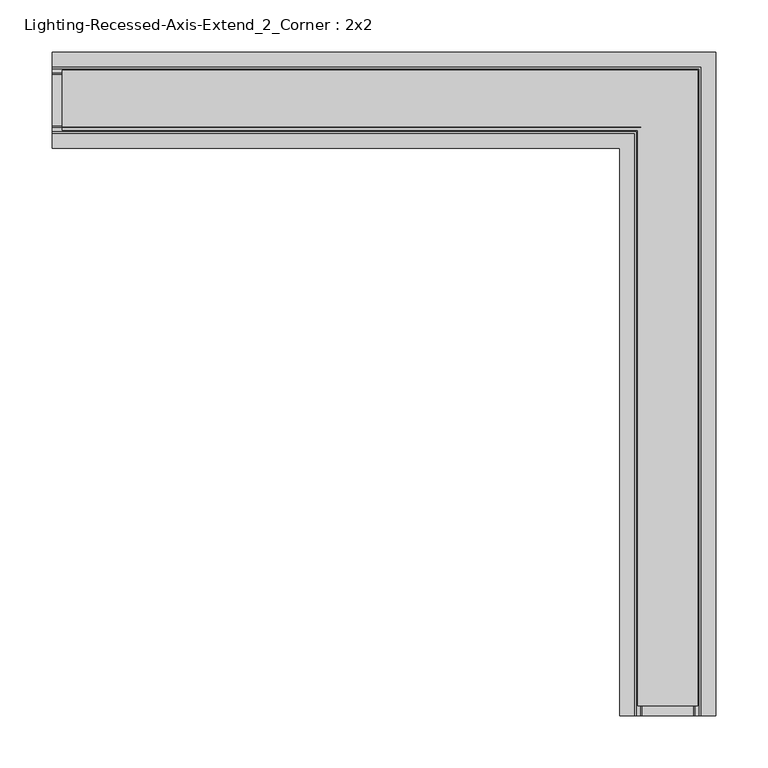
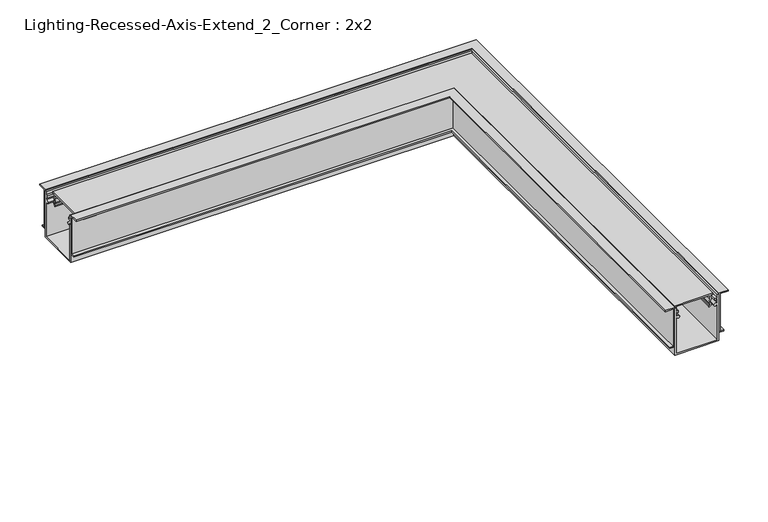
"""IFC4 building model written with IfcOpenShell, lengths in millimetres: light fixture geometry, Lighting-Recessed-Axis-Extend_2_Corner : 2x2."""

from ifc_helpers import new_model, si_unit, frame, origin, place, context, project, spatial, polyline, circle_curve, ellipse_curve, faceted_brep, source, transform, mapped, element, save
from ifc_brep_helpers import plane_surface, cylinder_surface, revolved_surface, advanced_brep


def lighting_recessed_axis_extend_2_corner_2x2_af192418(model_context):
    return source(origin(), model_context, "Body", "SolidModel", [
        advanced_brep(
        [(-304.8, -24.1727262, -4.8895009), (-304.8, -24.5114181, -11.3521263), (-304.8, -25.3818814, -17.9580097), (-304.8, -24.5665956, -19.4557425), (-304.8, -23.2119066, -20.6551445), (-304.8, -24.192808, -21.9831631), (-304.8, -25.7659952, -20.5903092), (-304.8, -27.1108807, -16.75974), (-304.8, -25.4753941, -12.7205342), (-304.8, -26.1394859, -10.8713211), (-304.8, -25.825992, -4.8895009), (-304.8, -28.829, -4.8895009), (-304.8, -28.829, -2.9845), (-304.8, 28.829, -2.9845), (-304.8, 28.829, -4.8895009), (-304.8, 25.825992, -4.8895009), (-304.8, 26.1394859, -10.8713211), (-304.8, 25.4753941, -12.7205342), (-304.8, 27.1108807, -16.75974), (-304.8, 25.7659952, -20.5903092), (-304.8, 24.192808, -21.9831631), (-304.8, 23.2119066, -20.6551445), (-304.8, 24.5665956, -19.4557425), (-304.8, 25.3818814, -17.9580097), (-304.8, 24.5114181, -11.3521263), (-304.8, 24.1727262, -4.8895009), (248.6232738, -577.596, -4.8895009), (296.9687262, -577.596, -4.8895009), (297.3074181, -577.596, -11.3521263), (298.1778814, -577.596, -17.9580097), (297.3625956, -577.596, -19.4557425), (296.0079066, -577.596, -20.6551445), (296.988808, -577.596, -21.9831631), (298.5619952, -577.596, -20.5903092), (299.9068807, -577.596, -16.75974), (298.2713941, -577.596, -12.7205342), (298.9354859, -577.596, -10.8713211), (298.621992, -577.596, -4.8895009), (301.625, -577.596, -4.8895009), (301.625, -577.596, -2.9845), (243.967, -577.596, -2.9845), (243.967, -577.596, -4.8895009), (246.970008, -577.596, -4.8895009), (246.6565141, -577.596, -10.8713211), (247.3206059, -577.596, -12.7205342), (245.6851193, -577.596, -16.75974), (247.0300048, -577.596, -20.5903092), (248.603192, -577.596, -21.9831631), (249.5840934, -577.596, -20.6551445), (248.2294044, -577.596, -19.4557425), (247.4141186, -577.596, -17.9580097), (248.2845819, -577.596, -11.3521263), (248.6232738, -24.1727262, -4.8895009), (248.2845819, -24.5114181, -11.3521263), (247.4141186, -25.3818814, -17.9580097), (248.2294044, -24.5665956, -19.4557425), (249.5840934, -23.2119066, -20.6551445), (248.603192, -24.192808, -21.9831631), (247.0300048, -25.7659952, -20.5903092), (245.6851193, -27.1108807, -16.75974), (247.3206059, -25.4753941, -12.7205342), (246.6565141, -26.1394859, -10.8713211), (246.970008, -25.825992, -4.8895009), (243.967, -28.829, -4.8895009), (243.967, -28.829, -2.9845), (301.625, 28.829, -2.9845), (301.625, 28.829, -4.8895009), (298.621992, 25.825992, -4.8895009), (298.9354859, 26.1394859, -10.8713211), (298.2713941, 25.4753941, -12.7205342), (299.9068807, 27.1108807, -16.75974), (298.5619952, 25.7659952, -20.5903092), (296.988808, 24.192808, -21.9831631), (296.0079066, 23.2119066, -20.6551445), (297.3625956, 24.5665956, -19.4557425), (298.1778814, 25.3818814, -17.9580097), (297.3074181, 24.5114181, -11.3521263), (296.9687262, 24.1727262, -4.8895009)],
        [
            (0, 1),
            (1, 2, circle_curve(frame((-304.8, -27.2542, -14.351), z_axis=(-1.0, 0.0, 0.0), x_axis=(0.0, 0.6748971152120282, 0.7379118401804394)), 4.064)),
            (2, 3, circle_curve(frame((-304.8, -22.149344, -17.1691543), z_axis=(1.0, 0.0, 0.0), x_axis=(0.0, -0.971490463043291, -0.23707863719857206)), 3.3274001)),
            (3, 4, circle_curve(frame((-304.8, -17.1303177, -12.4214292), z_axis=(1.0, 0.0, 0.0), x_axis=(0.0, -0.7264901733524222, -0.6871768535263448)), 10.2362001)),
            (4, 5, circle_curve(frame((-304.8, -23.7023573, -21.3191538), z_axis=(-1.0, 0.0, 0.0), x_axis=(0.0, 0.5941256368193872, 0.8043722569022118)), 0.8255)),
            (5, 6, circle_curve(frame((-304.8, -17.1303169, -12.4214283), z_axis=(-1.0, 0.0, 0.0), x_axis=(0.0, -0.5941256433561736, -0.8043722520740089)), 11.8872013)),
            (6, 7, circle_curve(frame((-304.8, -22.149344, -17.1691543), z_axis=(-1.0, 0.0, 0.0), x_axis=(0.0, -0.726468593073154, -0.6871996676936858)), 4.9784001)),
            (7, 8, circle_curve(frame((-304.8, -27.2542, -14.351), z_axis=(1.0, 0.0, 0.0), x_axis=(0.0, 0.05939464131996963, -0.9982345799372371)), 2.413)),
            (8, 9, circle_curve(frame((-304.8, -23.6029669, -11.0042544), z_axis=(-1.0, 0.0, 0.0), x_axis=(0.0, -0.7371760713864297, -0.675700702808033)), 2.54)),
            (9, 10),
            (10, 11),
            (11, 12),
            (12, 13),
            (13, 14),
            (14, 15),
            (15, 16),
            (16, 17, circle_curve(frame((-304.8, 23.6029669, -11.0042544), z_axis=(-1.0, 0.0, 0.0), x_axis=(0.0, 0.9986295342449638, 0.05233596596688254)), 2.54)),
            (17, 18, circle_curve(frame((-304.8, 27.2542, -14.351), z_axis=(1.0, 0.0, 0.0), x_axis=(0.0, -0.7371760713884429, 0.6757007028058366)), 2.413)),
            (18, 19, circle_curve(frame((-304.8, 22.149344, -17.1691543), z_axis=(-1.0, 0.0, 0.0), x_axis=(0.0, 0.996612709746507, 0.08223811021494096)), 4.9784001)),
            (19, 20, circle_curve(frame((-304.8, 17.1303169, -12.4214283), z_axis=(-1.0, 0.0, 0.0), x_axis=(0.0, 0.72646858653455, -0.6871996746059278)), 11.8872013)),
            (20, 21, circle_curve(frame((-304.8, 23.7023573, -21.3191538), z_axis=(-1.0, 0.0, 0.0), x_axis=(0.0, 0.594125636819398, -0.8043722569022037)), 0.8255)),
            (21, 22, circle_curve(frame((-304.8, 17.1303177, -12.4214292), z_axis=(1.0, 0.0, 0.0), x_axis=(0.0, 0.5941256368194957, -0.8043722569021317)), 10.2362001)),
            (22, 23, circle_curve(frame((-304.8, 22.149344, -17.1691543), z_axis=(1.0, 0.0, 0.0), x_axis=(0.0, 0.7265349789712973, -0.6871294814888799)), 3.3274001)),
            (23, 24, circle_curve(frame((-304.8, 27.2542, -14.351), z_axis=(-1.0, 0.0, 0.0), x_axis=(0.0, -0.46070831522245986, -0.8875516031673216)), 4.064)),
            (24, 25),
            (25, 0),
            (26, 27),
            (27, 28),
            (28, 29, circle_curve(frame((300.0502, -577.596, -14.351), z_axis=(0.0, -1.0, 0.0), x_axis=(-0.46070831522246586, 0.0, -0.8875516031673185)), 4.064)),
            (29, 30, circle_curve(frame((294.945344, -577.596, -17.1691543), z_axis=(0.0, 1.0, 0.0), x_axis=(0.7265349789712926, 0.0, -0.6871294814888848)), 3.3274001)),
            (30, 31, circle_curve(frame((289.9263177, -577.596, -12.4214292), z_axis=(0.0, 1.0, 0.0), x_axis=(0.5941256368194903, 0.0, -0.8043722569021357)), 10.2362001)),
            (31, 32, circle_curve(frame((296.4983573, -577.596, -21.3191538), z_axis=(0.0, -1.0, 0.0), x_axis=(0.5941256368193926, 0.0, -0.8043722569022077)), 0.8255)),
            (32, 33, circle_curve(frame((289.9263169, -577.596, -12.4214283), z_axis=(0.0, -1.0, 0.0), x_axis=(0.7264685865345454, 0.0, -0.6871996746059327)), 11.8872013)),
            (33, 34, circle_curve(frame((294.945344, -577.596, -17.1691543), z_axis=(0.0, -1.0, 0.0), x_axis=(0.9966127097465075, 0.0, 0.0822381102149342)), 4.9784001)),
            (34, 35, circle_curve(frame((300.0502, -577.596, -14.351), z_axis=(0.0, 1.0, 0.0), x_axis=(-0.7371760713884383, 0.0, 0.6757007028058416)), 2.413)),
            (35, 36, circle_curve(frame((296.3989669, -577.596, -11.0042544), z_axis=(0.0, -1.0, 0.0), x_axis=(0.9986295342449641, 0.0, 0.052335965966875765)), 2.54)),
            (36, 37),
            (37, 38),
            (38, 39),
            (39, 40),
            (40, 41),
            (41, 42),
            (42, 43),
            (43, 44, circle_curve(frame((249.1930331, -577.596, -11.0042544), z_axis=(0.0, -1.0, 0.0), x_axis=(-0.7371760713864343, 0.0, -0.675700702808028)), 2.54)),
            (44, 45, circle_curve(frame((245.5418, -577.596, -14.351), z_axis=(0.0, 1.0, 0.0), x_axis=(0.05939464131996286, 0.0, -0.9982345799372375)), 2.413)),
            (45, 46, circle_curve(frame((250.646656, -577.596, -17.1691543), z_axis=(0.0, -1.0, 0.0), x_axis=(-0.7264685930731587, 0.0, -0.6871996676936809)), 4.9784001)),
            (46, 47, circle_curve(frame((255.6656831, -577.596, -12.4214283), z_axis=(0.0, -1.0, 0.0), x_axis=(-0.594125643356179, 0.0, -0.8043722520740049)), 11.8872013)),
            (47, 48, circle_curve(frame((249.0936427, -577.596, -21.3191538), z_axis=(0.0, -1.0, 0.0), x_axis=(0.5941256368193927, 0.0, 0.8043722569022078)), 0.8255)),
            (48, 49, circle_curve(frame((255.6656823, -577.596, -12.4214292), z_axis=(0.0, 1.0, 0.0), x_axis=(-0.7264901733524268, 0.0, -0.68717685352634)), 10.2362001)),
            (49, 50, circle_curve(frame((250.646656, -577.596, -17.1691543), z_axis=(0.0, 1.0, 0.0), x_axis=(-0.9714904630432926, 0.0, -0.23707863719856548)), 3.3274001)),
            (50, 51, circle_curve(frame((245.5418, -577.596, -14.351), z_axis=(0.0, -1.0, 0.0), x_axis=(0.6748971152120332, 0.0, 0.7379118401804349)), 4.064)),
            (51, 26),
            (0, 52),
            (52, 53),
            (53, 1),
            (53, 54, ellipse_curve(frame((245.5418, -27.2542, -14.351), z_axis=(-0.7071067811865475, 0.7071067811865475, 0.0), x_axis=(-0.7071067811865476, -0.7071067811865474, 0.0)), 5.7473639, 4.064)),
            (54, 2),
            (54, 55, ellipse_curve(frame((250.646656, -22.149344, -17.1691543), z_axis=(0.7071067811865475, -0.7071067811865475, 0.0), x_axis=(0.7071067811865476, 0.7071067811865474, 0.0)), 4.7056543, 3.3274001)),
            (55, 3),
            (55, 56, ellipse_curve(frame((255.6656823, -17.1303177, -12.4214292), z_axis=(0.7071067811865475, -0.7071067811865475, 0.0), x_axis=(0.7071067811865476, 0.7071067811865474, 0.0)), 14.476173, 10.2362001)),
            (56, 4),
            (56, 57, ellipse_curve(frame((249.0936427, -23.7023573, -21.3191538), z_axis=(-0.7071067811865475, 0.7071067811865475, 0.0), x_axis=(-0.7071067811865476, -0.7071067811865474, 0.0)), 1.1674333, 0.8255)),
            (57, 5),
            (57, 58, ellipse_curve(frame((255.6656831, -17.1303169, -12.4214283), z_axis=(-0.7071067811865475, 0.7071067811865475, 0.0), x_axis=(-0.7071067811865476, -0.7071067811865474, 0.0)), 16.8110412, 11.8872013)),
            (58, 6),
            (58, 59, ellipse_curve(frame((250.646656, -22.149344, -17.1691543), z_axis=(-0.7071067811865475, 0.7071067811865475, 0.0), x_axis=(-0.7071067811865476, -0.7071067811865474, 0.0)), 7.0405209, 4.9784001)),
            (59, 7),
            (59, 60, ellipse_curve(frame((245.5418, -27.2542, -14.351), z_axis=(0.7071067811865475, -0.7071067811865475, 0.0), x_axis=(0.7071067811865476, 0.7071067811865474, 0.0)), 3.4124973, 2.413)),
            (60, 8),
            (60, 61, ellipse_curve(frame((249.1930331, -23.6029669, -11.0042544), z_axis=(-0.7071067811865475, 0.7071067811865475, 0.0), x_axis=(-0.7071067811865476, -0.7071067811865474, 0.0)), 3.5921024, 2.54)),
            (61, 9),
            (61, 62),
            (62, 10),
            (62, 42),
            (41, 63),
            (63, 11),
            (63, 64),
            (64, 12),
            (64, 40),
            (39, 65),
            (65, 13),
            (65, 66),
            (66, 14),
            (66, 38),
            (37, 67),
            (67, 15),
            (67, 68),
            (68, 16),
            (68, 69, ellipse_curve(frame((296.3989669, 23.6029669, -11.0042544), z_axis=(-0.7071067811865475, 0.7071067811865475, 0.0), x_axis=(-0.7071067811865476, -0.7071067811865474, 0.0)), 3.5921024, 2.54)),
            (69, 17),
            (69, 70, ellipse_curve(frame((300.0502, 27.2542, -14.351), z_axis=(0.7071067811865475, -0.7071067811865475, 0.0), x_axis=(0.7071067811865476, 0.7071067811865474, 0.0)), 3.4124973, 2.413)),
            (70, 18),
            (70, 71, ellipse_curve(frame((294.945344, 22.149344, -17.1691543), z_axis=(-0.7071067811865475, 0.7071067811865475, 0.0), x_axis=(-0.7071067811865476, -0.7071067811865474, 0.0)), 7.0405209, 4.9784001)),
            (71, 19),
            (71, 72, ellipse_curve(frame((289.9263169, 17.1303169, -12.4214283), z_axis=(-0.7071067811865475, 0.7071067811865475, 0.0), x_axis=(-0.7071067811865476, -0.7071067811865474, 0.0)), 16.8110412, 11.8872013)),
            (72, 20),
            (72, 73, ellipse_curve(frame((296.4983573, 23.7023573, -21.3191538), z_axis=(-0.7071067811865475, 0.7071067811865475, 0.0), x_axis=(-0.7071067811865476, -0.7071067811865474, 0.0)), 1.1674333, 0.8255)),
            (73, 21),
            (73, 74, ellipse_curve(frame((289.9263177, 17.1303177, -12.4214292), z_axis=(0.7071067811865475, -0.7071067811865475, 0.0), x_axis=(0.7071067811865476, 0.7071067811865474, 0.0)), 14.476173, 10.2362001)),
            (74, 22),
            (74, 75, ellipse_curve(frame((294.945344, 22.149344, -17.1691543), z_axis=(0.7071067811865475, -0.7071067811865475, 0.0), x_axis=(0.7071067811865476, 0.7071067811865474, 0.0)), 4.7056543, 3.3274001)),
            (75, 23),
            (75, 76, ellipse_curve(frame((300.0502, 27.2542, -14.351), z_axis=(-0.7071067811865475, 0.7071067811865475, 0.0), x_axis=(-0.7071067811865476, -0.7071067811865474, 0.0)), 5.7473639, 4.064)),
            (76, 24),
            (76, 77),
            (77, 25),
            (77, 27),
            (26, 52),
            (51, 53),
            (50, 54),
            (49, 55),
            (48, 56),
            (47, 57),
            (46, 58),
            (45, 59),
            (44, 60),
            (43, 61),
            (36, 68),
            (35, 69),
            (34, 70),
            (33, 71),
            (32, 72),
            (31, 73),
            (30, 74),
            (29, 75),
            (28, 76),
        ],
        [
            plane_surface(frame((-304.8, 0.0, -71.4375), z_axis=(-1.0, 0.0, 0.0), x_axis=(0.0, 0.0, 1.0))),
            plane_surface(frame((272.796, -577.596, -71.4375), z_axis=(0.0, -1.0, 0.0), x_axis=(0.0, 0.0, 1.0))),
            plane_surface(frame((-304.8, -24.1727262, -4.8895009), z_axis=(0.0, 0.9986295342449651, -0.05233596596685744), x_axis=(1.0, 0.0, 0.0))),
            cylinder_surface(frame((-304.8, -27.2542, -14.351), z_axis=(-1.0, 0.0, 0.0), x_axis=(0.0, 0.6748971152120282, 0.7379118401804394)), 4.064),
            revolved_surface(polyline([(253.97405606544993, -25.381881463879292, -17.958009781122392), (-304.8, -25.381881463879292, -17.958009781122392)]), (-304.8, -22.149344, -17.1691543), (1.0000000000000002, 0.0, 0.0)),
            revolved_surface(polyline([(265.9018823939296, -24.56681648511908, -19.455508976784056), (-304.8, -24.56681648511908, -19.455508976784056)]), (-304.8, -17.1303177, -12.4214292), (1.0, 0.0, 0.0)),
            cylinder_surface(frame((-304.8, -23.7023573, -21.3191538), z_axis=(-1.0000000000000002, 0.0, 0.0), x_axis=(0.0, 0.5941256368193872, 0.8043722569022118)), 0.8255),
            cylinder_surface(frame((-304.8, -17.1303169, -12.4214283), z_axis=(-1.0, 0.0, 0.0), x_axis=(0.0, -0.5941256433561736, -0.8043722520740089)), 11.8872013),
            cylinder_surface(frame((-304.8, -22.149344, -17.1691543), z_axis=(-1.0, 0.0, 0.0), x_axis=(0.0, -0.726468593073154, -0.6871996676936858)), 4.9784001),
            revolved_surface(polyline([(247.95479998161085, -27.110880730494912, -16.759740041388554), (-304.8, -27.110880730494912, -16.759740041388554)]), (-304.8, -27.2542, -14.351), (1.0, 0.0, 0.0)),
            cylinder_surface(frame((-304.8, -23.6029669, -11.0042544), z_axis=(-1.0000000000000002, 0.0, 0.0), x_axis=(0.0, -0.7371760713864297, -0.675700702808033)), 2.54),
            plane_surface(frame((-304.8, -26.1394859, -10.8713211), z_axis=(0.0, -0.9986295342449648, 0.05233596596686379), x_axis=(1.0, 0.0, 0.0))),
            plane_surface(frame((-304.8, -25.825992, -4.8895009), z_axis=(0.0, 0.0, -1.0), x_axis=(1.0, 0.0, 0.0))),
            plane_surface(frame((-304.8, -28.829, -4.8895009), z_axis=(0.0, -1.0, 0.0), x_axis=(1.0, 0.0, 0.0))),
            plane_surface(frame((-304.8, -28.829, -2.9845), z_axis=(0.0, 0.0, 1.0), x_axis=(1.0, 0.0, 0.0))),
            plane_surface(frame((-304.8, 28.829, -2.9845), z_axis=(0.0, 1.0, 0.0), x_axis=(1.0, 0.0, 0.0))),
            plane_surface(frame((-304.8, 28.829, -4.8895009), z_axis=(0.0, 0.0, -1.0), x_axis=(1.0, 0.0, 0.0))),
            plane_surface(frame((-304.8, 25.825992, -4.8895009), z_axis=(0.0, 0.9986295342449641, 0.05233596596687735), x_axis=(1.0, 0.0, 0.0))),
            cylinder_surface(frame((-304.8, 23.6029669, -11.0042544), z_axis=(-1.0, 0.0, 0.0), x_axis=(0.0, 0.9986295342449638, 0.05233596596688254)), 2.54),
            revolved_surface(polyline([(302.4631999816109, 25.475394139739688, -12.720534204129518), (-304.8, 25.475394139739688, -12.720534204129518)]), (-304.8, 27.2542, -14.351), (1.0, 0.0, 0.0)),
            cylinder_surface(frame((-304.8, 22.149344, -17.1691543), z_axis=(-1.0000000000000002, 0.0, 0.0), x_axis=(0.0, 0.996612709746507, 0.08223811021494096)), 4.9784001),
            cylinder_surface(frame((-304.8, 17.1303169, -12.4214283), z_axis=(-1.0, 0.0, 0.0), x_axis=(0.0, 0.72646858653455, -0.6871996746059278)), 11.8872013),
            cylinder_surface(frame((-304.8, 23.7023573, -21.3191538), z_axis=(-1.0, 0.0, 0.0), x_axis=(0.0, 0.594125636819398, -0.8043722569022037)), 0.8255),
            revolved_surface(polyline([(300.1625177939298, 23.211906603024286, -20.655144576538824), (-304.8, 23.211906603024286, -20.655144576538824)]), (-304.8, 17.1303177, -12.4214292), (1.0000000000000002, 0.0, 0.0)),
            revolved_surface(polyline([(298.2727440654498, 24.566816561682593, -19.455509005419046), (-304.8, 24.566816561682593, -19.455509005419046)]), (-304.8, 22.149344, -17.1691543), (1.0000000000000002, 0.0, 0.0)),
            cylinder_surface(frame((-304.8, 27.2542, -14.351), z_axis=(-1.0000000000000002, 0.0, 0.0), x_axis=(0.0, -0.46070831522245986, -0.8875516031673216)), 4.064),
            plane_surface(frame((-304.8, 24.5114181, -11.3521263), z_axis=(0.0, -0.9986295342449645, -0.052335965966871), x_axis=(1.0, 0.0, 0.0))),
            plane_surface(frame((-304.8, 24.1727262, -4.8895009), z_axis=(0.0, 0.0, -1.0), x_axis=(1.0, 0.0, 0.0))),
            plane_surface(frame((248.6232738, -24.1727262, -4.8895009), z_axis=(0.9986295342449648, 0.0, -0.05233596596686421), x_axis=(0.0, -1.0, 0.0))),
            cylinder_surface(frame((245.5418, 0.0, -14.351), z_axis=(0.0, 1.0, 0.0), x_axis=(0.6748971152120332, 0.0, 0.7379118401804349)), 4.064),
            revolved_surface(polyline([(247.4141185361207, -577.596, -17.95800978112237), (247.4141185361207, -18.821943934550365, -17.95800978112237)]), (250.646656, 0.0, -17.1691543), (0.0, -1.0, 0.0)),
            revolved_surface(polyline([(248.22918351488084, -577.596, -19.455508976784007), (248.22918351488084, -6.894117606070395, -19.455508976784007)]), (255.6656823, 0.0, -12.4214292), (0.0, -1.0, 0.0)),
            cylinder_surface(frame((249.0936427, 0.0, -21.3191538), z_axis=(0.0, 1.0000000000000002, 0.0), x_axis=(0.5941256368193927, 0.0, 0.8043722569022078)), 0.8255),
            cylinder_surface(frame((255.6656831, 0.0, -12.4214283), z_axis=(0.0, 1.0, 0.0), x_axis=(-0.594125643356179, 0.0, -0.8043722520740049)), 11.8872013),
            cylinder_surface(frame((250.646656, 0.0, -17.1691543), z_axis=(0.0, 1.0, 0.0), x_axis=(-0.7264685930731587, 0.0, -0.6871996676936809)), 4.9784001),
            revolved_surface(polyline([(245.68511926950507, -577.596, -16.759740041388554), (245.68511926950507, -24.841200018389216, -16.759740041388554)]), (245.5418, 0.0, -14.351), (0.0, -1.0, 0.0)),
            cylinder_surface(frame((249.1930331, 0.0, -11.0042544), z_axis=(0.0, 1.0, 0.0), x_axis=(-0.7371760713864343, 0.0, -0.675700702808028)), 2.54),
            plane_surface(frame((246.6565141, -26.1394859, -10.8713211), z_axis=(-0.9986295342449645, 0.0, 0.05233596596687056), x_axis=(0.0, -1.0, 0.0))),
            plane_surface(frame((243.967, -28.829, -4.8895009), z_axis=(-1.0, 0.0, 0.0), x_axis=(0.0, -1.0, 0.0))),
            plane_surface(frame((301.625, 28.829, -2.9845), z_axis=(1.0, 0.0, 0.0), x_axis=(0.0, -1.0, 0.0))),
            plane_surface(frame((298.621992, 25.825992, -4.8895009), z_axis=(0.9986295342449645, 0.0, 0.052335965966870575), x_axis=(0.0, -1.0, 0.0))),
            cylinder_surface(frame((296.3989669, 0.0, -11.0042544), z_axis=(0.0, 1.0, 0.0), x_axis=(0.9986295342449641, 0.0, 0.052335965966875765)), 2.54),
            revolved_surface(polyline([(298.2713941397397, -577.5960000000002, -12.720534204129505), (298.2713941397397, 29.6671999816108, -12.720534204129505)]), (300.0502, 0.0, -14.351), (0.0, -1.0000000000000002, 0.0)),
            cylinder_surface(frame((294.945344, 0.0, -17.1691543), z_axis=(0.0, 1.0000000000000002, 0.0), x_axis=(0.9966127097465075, 0.0, 0.0822381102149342)), 4.9784001),
            cylinder_surface(frame((289.9263169, 0.0, -12.4214283), z_axis=(0.0, 1.0, 0.0), x_axis=(0.7264685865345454, 0.0, -0.6871996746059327)), 11.8872013),
            cylinder_surface(frame((296.4983573, 0.0, -21.3191538), z_axis=(0.0, 1.0, 0.0), x_axis=(0.5941256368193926, 0.0, -0.8043722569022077)), 0.8255),
            revolved_surface(polyline([(296.00790660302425, -577.596, -20.655144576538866), (296.00790660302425, 27.366517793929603, -20.655144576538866)]), (289.9263177, 0.0, -12.4214292), (0.0, -1.0, 0.0)),
            revolved_surface(polyline([(297.36281656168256, -577.5960000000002, -19.455509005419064), (297.36281656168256, 25.476744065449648, -19.455509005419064)]), (294.945344, 0.0, -17.1691543), (0.0, -1.0000000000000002, 0.0)),
            cylinder_surface(frame((300.0502, 0.0, -14.351), z_axis=(0.0, 1.0000000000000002, 0.0), x_axis=(-0.46070831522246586, 0.0, -0.8875516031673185)), 4.064),
            plane_surface(frame((297.3074181, 24.5114181, -11.3521263), z_axis=(-0.9986295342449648, 0.0, -0.052335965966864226), x_axis=(0.0, -1.0, 0.0))),
        ],
        [
            (0, [[1, 2, 3, 4, 5, 6, 7, 8, 9, 10, 11, 12, 13, 14, 15, 16, 17, 18, 19, 20, 21, 22, 23, 24, 25, 26]]),
            (1, [[27, 28, 29, 30, 31, 32, 33, 34, 35, 36, 37, 38, 39, 40, 41, 42, 43, 44, 45, 46, 47, 48, 49, 50, 51, 52]]),
            (2, [[-1, 53, 54, 55]]),
            (3, [[-2, -55, 56, 57]]),
            (4, [[-3, -57, 58, 59]]),
            (5, [[-4, -59, 60, 61]]),
            (6, [[-5, -61, 62, 63]]),
            (7, [[-6, -63, 64, 65]]),
            (8, [[-7, -65, 66, 67]]),
            (9, [[-8, -67, 68, 69]]),
            (10, [[-9, -69, 70, 71]]),
            (11, [[-10, -71, 72, 73]]),
            (12, [[-11, -73, 74, -42, 75, 76]]),
            (13, [[-12, -76, 77, 78]]),
            (14, [[-13, -78, 79, -40, 80, 81]]),
            (15, [[-14, -81, 82, 83]]),
            (16, [[-15, -83, 84, -38, 85, 86]]),
            (17, [[-16, -86, 87, 88]]),
            (18, [[-17, -88, 89, 90]]),
            (19, [[-18, -90, 91, 92]]),
            (20, [[-19, -92, 93, 94]]),
            (21, [[-20, -94, 95, 96]]),
            (22, [[-21, -96, 97, 98]]),
            (23, [[-22, -98, 99, 100]]),
            (24, [[-23, -100, 101, 102]]),
            (25, [[-24, -102, 103, 104]]),
            (26, [[-25, -104, 105, 106]]),
            (27, [[-26, -106, 107, -27, 108, -53]]),
            (28, [[-54, -108, -52, 109]]),
            (29, [[-56, -109, -51, 110]]),
            (30, [[-58, -110, -50, 111]]),
            (31, [[-60, -111, -49, 112]]),
            (32, [[-62, -112, -48, 113]]),
            (33, [[-64, -113, -47, 114]]),
            (34, [[-66, -114, -46, 115]]),
            (35, [[-68, -115, -45, 116]]),
            (36, [[-70, -116, -44, 117]]),
            (37, [[-72, -117, -43, -74]]),
            (38, [[-77, -75, -41, -79]]),
            (39, [[-82, -80, -39, -84]]),
            (40, [[-87, -85, -37, 118]]),
            (41, [[-89, -118, -36, 119]]),
            (42, [[-91, -119, -35, 120]]),
            (43, [[-93, -120, -34, 121]]),
            (44, [[-95, -121, -33, 122]]),
            (45, [[-97, -122, -32, 123]]),
            (46, [[-99, -123, -31, 124]]),
            (47, [[-101, -124, -30, 125]]),
            (48, [[-103, -125, -29, 126]]),
            (49, [[-105, -126, -28, -107]]),
        ],
    ),
        advanced_brep(
        [(-313.9567, -29.972, -14.9098), (-313.9567, -29.972, -69.4055), (-313.9567, 29.972, -69.4055), (-313.9567, 29.972, -14.9098), (-313.9567, 28.1325797, -14.9098), (-313.9567, 25.8730546, -16.2143374), (-313.9567, 24.6896516, -13.9591318), (-313.9567, 28.067, -11.1252), (-313.9567, 28.067, -12.8778), (-313.9567, 29.972, -12.8778), (-313.9567, 29.972, -6.35), (-313.9567, 28.067, -6.35), (-313.9567, 28.067, -7.874), (-313.9567, 26.416, -7.7874748), (-313.9567, 26.416, -5.08), (-313.9567, 29.972, -5.08), (-313.9567, 29.972, 0.0), (-313.9567, 32.004, 0.0), (-313.9567, 32.004, -71.4375), (-313.9567, -32.004, -71.4375), (-313.9567, -32.004, 0.0), (-313.9567, -29.972, 0.0), (-313.9567, -29.972, -5.08), (-313.9567, -26.416, -5.08), (-313.9567, -26.416, -7.7874748), (-313.9567, -28.067, -7.874), (-313.9567, -28.067, -6.35), (-313.9567, -29.972, -6.35), (-313.9567, -29.972, -12.8778), (-313.9567, -28.067, -12.8778), (-313.9567, -28.067, -11.1252), (-313.9567, -24.6896516, -13.9591318), (-313.9567, -25.8730546, -16.2143374), (-313.9567, -28.1325797, -14.9098), (242.824, -586.7527, -14.9098), (244.6634203, -586.7527, -14.9098), (246.9229454, -586.7527, -16.2143374), (248.1063484, -586.7527, -13.9591318), (244.729, -586.7527, -11.1252), (244.729, -586.7527, -12.8778), (242.824, -586.7527, -12.8778), (242.824, -586.7527, -6.35), (244.729, -586.7527, -6.35), (244.729, -586.7527, -7.874), (246.38, -586.7527, -7.7874748), (246.38, -586.7527, -5.08), (242.824, -586.7527, -5.08), (242.824, -586.7527, 0.0), (240.792, -586.7527, 0.0), (240.792, -586.7527, -71.4375), (304.8, -586.7527, -71.4375), (304.8, -586.7527, 0.0), (302.768, -586.7527, 0.0), (302.768, -586.7527, -5.08), (299.212, -586.7527, -5.08), (299.212, -586.7527, -7.7874748), (300.863, -586.7527, -7.874), (300.863, -586.7527, -6.35), (302.768, -586.7527, -6.35), (302.768, -586.7527, -12.8778), (300.863, -586.7527, -12.8778), (300.863, -586.7527, -11.1252), (297.4856516, -586.7527, -13.9591318), (298.6690546, -586.7527, -16.2143374), (300.9285797, -586.7527, -14.9098), (302.768, -586.7527, -14.9098), (302.768, -586.7527, -69.4055), (242.824, -586.7527, -69.4055), (242.824, -29.972, -14.9098), (242.824, -29.972, -69.4055), (302.768, 29.972, -69.4055), (302.768, 29.972, -14.9098), (300.9285797, 28.1325797, -14.9098), (298.6690546, 25.8730546, -16.2143374), (297.4856516, 24.6896516, -13.9591318), (300.863, 28.067, -11.1252), (300.863, 28.067, -12.8778), (302.768, 29.972, -12.8778), (302.768, 29.972, -6.35), (300.863, 28.067, -6.35), (300.863, 28.067, -7.874), (299.212, 26.416, -7.7874748), (299.212, 26.416, -5.08), (302.768, 29.972, -5.08), (302.768, 29.972, 0.0), (304.8, 32.004, 0.0), (304.8, 32.004, -71.4375), (240.792, -32.004, -71.4375), (240.792, -32.004, 0.0), (242.824, -29.972, 0.0), (242.824, -29.972, -5.08), (246.38, -26.416, -5.08), (246.38, -26.416, -7.7874748), (244.729, -28.067, -7.874), (244.729, -28.067, -6.35), (242.824, -29.972, -6.35), (242.824, -29.972, -12.8778), (244.729, -28.067, -12.8778), (244.729, -28.067, -11.1252), (248.1063484, -24.6896516, -13.9591318), (246.9229454, -25.8730546, -16.2143374), (244.6634203, -28.1325797, -14.9098)],
        [
            (0, 1),
            (1, 2),
            (2, 3),
            (3, 4),
            (4, 5, circle_curve(frame((-313.9567, 26.6262297, -14.9098), z_axis=(-1.0, 0.0, 0.0), x_axis=(0.0, -0.499999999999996, -0.866025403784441)), 1.5063501)),
            (5, 6, circle_curve(frame((-313.9567, 27.0642121, -14.1511921), z_axis=(-1.0, 0.0, 0.0), x_axis=(0.0, -0.9967449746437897, 0.08061920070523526)), 2.382315)),
            (6, 7),
            (7, 8),
            (8, 9),
            (9, 10),
            (10, 11),
            (11, 12),
            (12, 13),
            (13, 14),
            (14, 15),
            (15, 16),
            (16, 17),
            (17, 18),
            (18, 19),
            (19, 20),
            (20, 21),
            (21, 22),
            (22, 23),
            (23, 24),
            (24, 25),
            (25, 26),
            (26, 27),
            (27, 28),
            (28, 29),
            (29, 30),
            (30, 31),
            (31, 32, circle_curve(frame((-313.9567, -27.0642121, -14.1511921), z_axis=(-1.0, 0.0, 0.0), x_axis=(0.0, 0.5000000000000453, -0.8660254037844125)), 2.382315)),
            (32, 33, circle_curve(frame((-313.9567, -26.6262297, -14.9098), z_axis=(-1.0, 0.0, 0.0), x_axis=(0.0, -1.0, 0.0)), 1.5063501)),
            (33, 0),
            (34, 35),
            (35, 36, circle_curve(frame((246.1697703, -586.7527, -14.9098), z_axis=(0.0, -1.0, 0.0), x_axis=(-1.0, 0.0, 0.0)), 1.5063501)),
            (36, 37, circle_curve(frame((245.7317879, -586.7527, -14.1511921), z_axis=(0.0, -1.0, 0.0), x_axis=(0.5000000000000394, 0.0, -0.866025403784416)), 2.382315)),
            (37, 38),
            (38, 39),
            (39, 40),
            (40, 41),
            (41, 42),
            (42, 43),
            (43, 44),
            (44, 45),
            (45, 46),
            (46, 47),
            (47, 48),
            (48, 49),
            (49, 50),
            (50, 51),
            (51, 52),
            (52, 53),
            (53, 54),
            (54, 55),
            (55, 56),
            (56, 57),
            (57, 58),
            (58, 59),
            (59, 60),
            (60, 61),
            (61, 62),
            (62, 63, circle_curve(frame((299.8602121, -586.7527, -14.1511921), z_axis=(0.0, -1.0, 0.0), x_axis=(-0.9967449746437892, 0.0, 0.08061920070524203)), 2.382315)),
            (63, 64, circle_curve(frame((299.4222297, -586.7527, -14.9098), z_axis=(0.0, -1.0, 0.0), x_axis=(-0.5000000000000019, 0.0, -0.8660254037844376)), 1.5063501)),
            (64, 65),
            (65, 66),
            (66, 67),
            (67, 34),
            (0, 68),
            (68, 69),
            (69, 1),
            (69, 67),
            (66, 70),
            (70, 2),
            (70, 71),
            (71, 3),
            (71, 65),
            (64, 72),
            (72, 4),
            (72, 73, ellipse_curve(frame((299.4222297, 26.6262297, -14.9098), z_axis=(-0.7071067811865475, 0.7071067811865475, 0.0), x_axis=(-0.7071067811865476, -0.7071067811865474, 0.0)), 2.1303007, 1.5063501)),
            (73, 5),
            (73, 74, ellipse_curve(frame((299.8602121, 27.0642121, -14.1511921), z_axis=(-0.7071067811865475, 0.7071067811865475, 0.0), x_axis=(-0.7071067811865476, -0.7071067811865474, 0.0)), 3.3691022, 2.382315)),
            (74, 6),
            (74, 75),
            (75, 7),
            (75, 76),
            (76, 8),
            (76, 60),
            (59, 77),
            (77, 9),
            (77, 78),
            (78, 10),
            (78, 58),
            (57, 79),
            (79, 11),
            (79, 80),
            (80, 12),
            (80, 81),
            (81, 13),
            (81, 82),
            (82, 14),
            (82, 54),
            (53, 83),
            (83, 15),
            (83, 84),
            (84, 16),
            (84, 52),
            (51, 85),
            (85, 17),
            (85, 86),
            (86, 18),
            (86, 50),
            (49, 87),
            (87, 19),
            (87, 88),
            (88, 20),
            (88, 48),
            (47, 89),
            (89, 21),
            (89, 90),
            (90, 22),
            (90, 46),
            (45, 91),
            (91, 23),
            (91, 92),
            (92, 24),
            (92, 93),
            (93, 25),
            (93, 94),
            (94, 26),
            (94, 42),
            (41, 95),
            (95, 27),
            (95, 96),
            (96, 28),
            (96, 40),
            (39, 97),
            (97, 29),
            (97, 98),
            (98, 30),
            (98, 99),
            (99, 31),
            (99, 100, ellipse_curve(frame((245.7317879, -27.0642121, -14.1511921), z_axis=(-0.7071067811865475, 0.7071067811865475, 0.0), x_axis=(-0.7071067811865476, -0.7071067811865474, 0.0)), 3.3691022, 2.382315)),
            (100, 32),
            (100, 101, ellipse_curve(frame((246.1697703, -26.6262297, -14.9098), z_axis=(-0.7071067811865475, 0.7071067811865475, 0.0), x_axis=(-0.7071067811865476, -0.7071067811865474, 0.0)), 2.1303007, 1.5063501)),
            (101, 33),
            (101, 35),
            (34, 68),
            (63, 73),
            (62, 74),
            (61, 75),
            (56, 80),
            (55, 81),
            (44, 92),
            (43, 93),
            (38, 98),
            (37, 99),
            (36, 100),
        ],
        [
            plane_surface(frame((-313.9567, 0.0, -71.4375), z_axis=(-1.0, 0.0, 0.0), x_axis=(0.0, 0.0, 1.0))),
            plane_surface(frame((272.796, -586.7527, -71.4375), z_axis=(0.0, -1.0, 0.0), x_axis=(0.0, 0.0, 1.0))),
            plane_surface(frame((-313.9567, -29.972, -14.9098), z_axis=(0.0, 1.0, 0.0), x_axis=(1.0, 0.0, 0.0))),
            plane_surface(frame((-313.9567, -29.972, -69.4055), z_axis=(0.0, 0.0, 1.0), x_axis=(1.0, 0.0, 0.0))),
            plane_surface(frame((-313.9567, 29.972, -69.4055), z_axis=(0.0, -1.0, 0.0), x_axis=(1.0, 0.0, 0.0))),
            plane_surface(frame((-313.9567, 29.972, -14.9098), z_axis=(0.0, 0.0, -1.0), x_axis=(1.0, 0.0, 0.0))),
            cylinder_surface(frame((-313.9567, 26.6262297, -14.9098), z_axis=(-1.0, 0.0, 0.0), x_axis=(0.0, -0.499999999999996, -0.866025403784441)), 1.5063501),
            cylinder_surface(frame((-313.9567, 27.0642121, -14.1511921), z_axis=(-1.0, 0.0, 0.0), x_axis=(0.0, -0.9967449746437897, 0.08061920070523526)), 2.382315),
            plane_surface(frame((-313.9567, 24.6896516, -13.9591318), z_axis=(0.0, -0.6427876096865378, 0.7660444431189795), x_axis=(1.0, 0.0, 0.0))),
            plane_surface(frame((-313.9567, 28.067, -11.1252), z_axis=(0.0, 1.0, 0.0), x_axis=(1.0, 0.0, 0.0))),
            plane_surface(frame((-313.9567, 28.067, -12.8778), z_axis=(0.0, 0.0, 1.0), x_axis=(1.0, 0.0, 0.0))),
            plane_surface(frame((-313.9567, 29.972, -12.8778), z_axis=(0.0, -1.0, 0.0), x_axis=(1.0, 0.0, 0.0))),
            plane_surface(frame((-313.9567, 29.972, -6.35), z_axis=(0.0, 0.0, -1.0), x_axis=(1.0, 0.0, 0.0))),
            plane_surface(frame((-313.9567, 28.067, -6.35), z_axis=(0.0, 1.0, 0.0), x_axis=(1.0, 0.0, 0.0))),
            plane_surface(frame((-313.9567, 28.067, -7.874), z_axis=(0.0, -0.052335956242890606, -0.9986295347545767), x_axis=(1.0, 0.0, 0.0))),
            plane_surface(frame((-313.9567, 26.416, -7.7874748), z_axis=(0.0, -1.0, 0.0), x_axis=(1.0, 0.0, 0.0))),
            plane_surface(frame((-313.9567, 26.416, -5.08), z_axis=(0.0, 0.0, 1.0), x_axis=(1.0, 0.0, 0.0))),
            plane_surface(frame((-313.9567, 29.972, -5.08), z_axis=(0.0, -1.0, 0.0), x_axis=(1.0, 0.0, 0.0))),
            plane_surface(frame((-313.9567, 29.972, 0.0), z_axis=(0.0, 0.0, 1.0), x_axis=(1.0, 0.0, 0.0))),
            plane_surface(frame((-313.9567, 32.004, 0.0), z_axis=(0.0, 1.0, 0.0), x_axis=(1.0, 0.0, 0.0))),
            plane_surface(frame((-313.9567, 32.004, -71.4375), z_axis=(0.0, 0.0, -1.0), x_axis=(1.0, 0.0, 0.0))),
            plane_surface(frame((-313.9567, -32.004, -71.4375), z_axis=(0.0, -1.0, 0.0), x_axis=(1.0, 0.0, 0.0))),
            plane_surface(frame((-313.9567, -32.004, 0.0), z_axis=(0.0, 0.0, 1.0), x_axis=(1.0, 0.0, 0.0))),
            plane_surface(frame((-313.9567, -29.972, 0.0), z_axis=(0.0, 1.0, 0.0), x_axis=(1.0, 0.0, 0.0))),
            plane_surface(frame((-313.9567, -29.972, -5.08), z_axis=(0.0, 0.0, 1.0), x_axis=(1.0, 0.0, 0.0))),
            plane_surface(frame((-313.9567, -26.416, -5.08), z_axis=(0.0, 1.0, 0.0), x_axis=(1.0, 0.0, 0.0))),
            plane_surface(frame((-313.9567, -26.416, -7.7874748), z_axis=(0.0, 0.052335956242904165, -0.998629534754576), x_axis=(1.0, 0.0, 0.0))),
            plane_surface(frame((-313.9567, -28.067, -7.874), z_axis=(0.0, -1.0, 0.0), x_axis=(1.0, 0.0, 0.0))),
            plane_surface(frame((-313.9567, -28.067, -6.35), z_axis=(0.0, 0.0, -1.0), x_axis=(1.0, 0.0, 0.0))),
            plane_surface(frame((-313.9567, -29.972, -6.35), z_axis=(0.0, 1.0, 0.0), x_axis=(1.0, 0.0, 0.0))),
            plane_surface(frame((-313.9567, -29.972, -12.8778), z_axis=(0.0, 0.0, 1.0), x_axis=(1.0, 0.0, 0.0))),
            plane_surface(frame((-313.9567, -28.067, -12.8778), z_axis=(0.0, -1.0, 0.0), x_axis=(1.0, 0.0, 0.0))),
            plane_surface(frame((-313.9567, -28.067, -11.1252), z_axis=(0.0, 0.6427876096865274, 0.7660444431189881), x_axis=(1.0, 0.0, 0.0))),
            cylinder_surface(frame((-313.9567, -27.0642121, -14.1511921), z_axis=(-1.0, 0.0, 0.0), x_axis=(0.0, 0.5000000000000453, -0.8660254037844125)), 2.382315),
            cylinder_surface(frame((-313.9567, -26.6262297, -14.9098), z_axis=(-1.0, 0.0, 0.0), x_axis=(0.0, -1.0, 0.0)), 1.5063501),
            plane_surface(frame((-313.9567, -28.1325797, -14.9098), z_axis=(0.0, 0.0, -1.0), x_axis=(1.0, 0.0, 0.0))),
            plane_surface(frame((242.824, -29.972, -14.9098), z_axis=(1.0, 0.0, 0.0), x_axis=(0.0, -1.0, 0.0))),
            plane_surface(frame((302.768, 29.972, -69.4055), z_axis=(-1.0, 0.0, 0.0), x_axis=(0.0, -1.0, 0.0))),
            cylinder_surface(frame((299.4222297, 0.0, -14.9098), z_axis=(0.0, 1.0, 0.0), x_axis=(-0.5000000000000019, 0.0, -0.8660254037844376)), 1.5063501),
            cylinder_surface(frame((299.8602121, 0.0, -14.1511921), z_axis=(0.0, 1.0000000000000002, 0.0), x_axis=(-0.9967449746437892, 0.0, 0.08061920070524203)), 2.382315),
            plane_surface(frame((297.4856516, 24.6896516, -13.9591318), z_axis=(-0.6427876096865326, 0.0, 0.7660444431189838), x_axis=(0.0, -1.0, 0.0))),
            plane_surface(frame((300.863, 28.067, -11.1252), z_axis=(1.0, 0.0, 0.0), x_axis=(0.0, -1.0, 0.0))),
            plane_surface(frame((302.768, 29.972, -12.8778), z_axis=(-1.0, 0.0, 0.0), x_axis=(0.0, -1.0, 0.0))),
            plane_surface(frame((300.863, 28.067, -6.35), z_axis=(1.0, 0.0, 0.0), x_axis=(0.0, -1.0, 0.0))),
            plane_surface(frame((300.863, 28.067, -7.874), z_axis=(-0.052335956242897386, 0.0, -0.9986295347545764), x_axis=(0.0, -1.0, 0.0))),
            plane_surface(frame((299.212, 26.416, -7.7874748), z_axis=(-1.0, 0.0, 0.0), x_axis=(0.0, -1.0, 0.0))),
            plane_surface(frame((302.768, 29.972, -5.08), z_axis=(-1.0, 0.0, 0.0), x_axis=(0.0, -1.0, 0.0))),
            plane_surface(frame((304.8, 32.004, 0.0), z_axis=(1.0, 0.0, 0.0), x_axis=(0.0, -1.0, 0.0))),
            plane_surface(frame((240.792, -32.004, -71.4375), z_axis=(-1.0, 0.0, 0.0), x_axis=(0.0, -1.0, 0.0))),
            plane_surface(frame((242.824, -29.972, 0.0), z_axis=(1.0, 0.0, 0.0), x_axis=(0.0, -1.0, 0.0))),
            plane_surface(frame((246.38, -26.416, -5.08), z_axis=(1.0, 0.0, 0.0), x_axis=(0.0, -1.0, 0.0))),
            plane_surface(frame((246.38, -26.416, -7.7874748), z_axis=(0.052335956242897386, 0.0, -0.9986295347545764), x_axis=(0.0, -1.0, 0.0))),
            plane_surface(frame((244.729, -28.067, -7.874), z_axis=(-1.0, 0.0, 0.0), x_axis=(0.0, -1.0, 0.0))),
            plane_surface(frame((242.824, -29.972, -6.35), z_axis=(1.0, 0.0, 0.0), x_axis=(0.0, -1.0, 0.0))),
            plane_surface(frame((244.729, -28.067, -12.8778), z_axis=(-1.0, 0.0, 0.0), x_axis=(0.0, -1.0, 0.0))),
            plane_surface(frame((244.729, -28.067, -11.1252), z_axis=(0.6427876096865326, 0.0, 0.7660444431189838), x_axis=(0.0, -1.0, 0.0))),
            cylinder_surface(frame((245.7317879, 0.0, -14.1511921), z_axis=(0.0, 1.0, 0.0), x_axis=(0.5000000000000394, 0.0, -0.866025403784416)), 2.382315),
            cylinder_surface(frame((246.1697703, 0.0, -14.9098), z_axis=(0.0, 1.0, 0.0), x_axis=(-1.0, 0.0, 0.0)), 1.5063501),
        ],
        [
            (0, [[1, 2, 3, 4, 5, 6, 7, 8, 9, 10, 11, 12, 13, 14, 15, 16, 17, 18, 19, 20, 21, 22, 23, 24, 25, 26, 27, 28, 29, 30, 31, 32, 33, 34]]),
            (1, [[35, 36, 37, 38, 39, 40, 41, 42, 43, 44, 45, 46, 47, 48, 49, 50, 51, 52, 53, 54, 55, 56, 57, 58, 59, 60, 61, 62, 63, 64, 65, 66, 67, 68]]),
            (2, [[-1, 69, 70, 71]]),
            (3, [[-2, -71, 72, -67, 73, 74]]),
            (4, [[-3, -74, 75, 76]]),
            (5, [[-4, -76, 77, -65, 78, 79]]),
            (6, [[-5, -79, 80, 81]]),
            (7, [[-6, -81, 82, 83]]),
            (8, [[-7, -83, 84, 85]]),
            (9, [[-8, -85, 86, 87]]),
            (10, [[-9, -87, 88, -60, 89, 90]]),
            (11, [[-10, -90, 91, 92]]),
            (12, [[-11, -92, 93, -58, 94, 95]]),
            (13, [[-12, -95, 96, 97]]),
            (14, [[-13, -97, 98, 99]]),
            (15, [[-14, -99, 100, 101]]),
            (16, [[-15, -101, 102, -54, 103, 104]]),
            (17, [[-16, -104, 105, 106]]),
            (18, [[-17, -106, 107, -52, 108, 109]]),
            (19, [[-18, -109, 110, 111]]),
            (20, [[-19, -111, 112, -50, 113, 114]]),
            (21, [[-20, -114, 115, 116]]),
            (22, [[-21, -116, 117, -48, 118, 119]]),
            (23, [[-22, -119, 120, 121]]),
            (24, [[-23, -121, 122, -46, 123, 124]]),
            (25, [[-24, -124, 125, 126]]),
            (26, [[-25, -126, 127, 128]]),
            (27, [[-26, -128, 129, 130]]),
            (28, [[-27, -130, 131, -42, 132, 133]]),
            (29, [[-28, -133, 134, 135]]),
            (30, [[-29, -135, 136, -40, 137, 138]]),
            (31, [[-30, -138, 139, 140]]),
            (32, [[-31, -140, 141, 142]]),
            (33, [[-32, -142, 143, 144]]),
            (34, [[-33, -144, 145, 146]]),
            (35, [[-34, -146, 147, -35, 148, -69]]),
            (36, [[-70, -148, -68, -72]]),
            (37, [[-75, -73, -66, -77]]),
            (38, [[-80, -78, -64, 149]]),
            (39, [[-82, -149, -63, 150]]),
            (40, [[-84, -150, -62, 151]]),
            (41, [[-86, -151, -61, -88]]),
            (42, [[-91, -89, -59, -93]]),
            (43, [[-96, -94, -57, 152]]),
            (44, [[-98, -152, -56, 153]]),
            (45, [[-100, -153, -55, -102]]),
            (46, [[-105, -103, -53, -107]]),
            (47, [[-110, -108, -51, -112]]),
            (48, [[-115, -113, -49, -117]]),
            (49, [[-120, -118, -47, -122]]),
            (50, [[-125, -123, -45, 154]]),
            (51, [[-127, -154, -44, 155]]),
            (52, [[-129, -155, -43, -131]]),
            (53, [[-134, -132, -41, -136]]),
            (54, [[-139, -137, -39, 156]]),
            (55, [[-141, -156, -38, 157]]),
            (56, [[-143, -157, -37, 158]]),
            (57, [[-145, -158, -36, -147]]),
        ],
    ),
        faceted_brep([(-313.9567, 32.004, 1.651), (-313.9567, 45.593, 1.651), (-313.9567, 45.593, 0.0), (-313.9567, 34.29, 0.0), (-313.9567, 34.29, -57.023), (-313.9567, 38.954552, -57.023), (-313.9567, 38.954552, -58.674), (-313.9567, 32.004, -58.674), (304.8, 32.004, 1.651), (304.8, -586.7527, 1.651), (318.389, -586.7527, 1.651), (318.389, 45.593, 1.651), (318.389, 45.593, 0.0), (318.389, -586.7527, 0.0), (307.086, -586.7527, 0.0), (307.086, 34.29, 0.0), (307.086, 34.29, -57.023), (307.086, -586.7527, -57.023), (311.750552, -586.7527, -57.023), (311.750552, 38.954552, -57.023), (311.750552, 38.954552, -58.674), (311.750552, -586.7527, -58.674), (304.8, -586.7527, -58.674), (304.8, 32.004, -58.674)], [[[0, 1, 2, 3, 4, 5, 6, 7]], [[1, 0, 8, 9, 10, 11]], [[2, 1, 11, 12]], [[3, 2, 12, 13, 14, 15]], [[4, 3, 15, 16]], [[5, 4, 16, 17, 18, 19]], [[6, 5, 19, 20]], [[7, 6, 20, 21, 22, 23]], [[0, 7, 23, 8]], [[9, 22, 21, 18, 17, 14, 13, 10]], [[12, 11, 10, 13]], [[16, 15, 14, 17]], [[20, 19, 18, 21]], [[8, 23, 22, 9]]]),
        faceted_brep([(-313.9567, -32.004, 1.651), (-313.9567, -32.004, -58.674), (-313.9567, -38.954552, -58.674), (-313.9567, -38.954552, -57.023), (-313.9567, -34.29, -57.023), (-313.9567, -34.29, 0.0), (-313.9567, -45.593, 0.0), (-313.9567, -45.593, 1.651), (240.792, -32.004, 1.651), (240.792, -32.004, -58.674), (240.792, -586.7527, -58.674), (233.841448, -586.7527, -58.674), (233.841448, -38.954552, -58.674), (233.841448, -38.954552, -57.023), (233.841448, -586.7527, -57.023), (238.506, -586.7527, -57.023), (238.506, -34.29, -57.023), (238.506, -34.29, 0.0), (238.506, -586.7527, 0.0), (227.203, -586.7527, 0.0), (227.203, -45.593, 0.0), (227.203, -45.593, 1.651), (227.203, -586.7527, 1.651), (240.792, -586.7527, 1.651)], [[[0, 1, 2, 3, 4, 5, 6, 7]], [[1, 0, 8, 9]], [[2, 1, 9, 10, 11, 12]], [[3, 2, 12, 13]], [[4, 3, 13, 14, 15, 16]], [[5, 4, 16, 17]], [[6, 5, 17, 18, 19, 20]], [[7, 6, 20, 21]], [[0, 7, 21, 22, 23, 8]], [[23, 22, 19, 18, 15, 14, 11, 10]], [[9, 8, 23, 10]], [[13, 12, 11, 14]], [[17, 16, 15, 18]], [[21, 20, 19, 22]]]),
    ])


if __name__ == "__main__":
    model = new_model("IFC4")
    model_context = context("Model", 3, world=origin())
    ifc_project = project(units=[si_unit("LENGTHUNIT", "METRE", prefix="MILLI")], contexts=[model_context])
    site = spatial("IfcSite", under=ifc_project)
    building = spatial("IfcBuilding", under=site)
    placement = place(None, origin())
    lighting_recessed_axis_extend_2_corner_2x2_shape = lighting_recessed_axis_extend_2_corner_2x2_af192418(model_context)
    element("IfcLightFixture", 1, ObjectType="Lighting-Recessed-Axis-Extend_2_Corner : 2x2", at=placement, inside=building, context=model_context, shape_type="MappedRepresentation", body=[
        mapped(lighting_recessed_axis_extend_2_corner_2x2_shape, transform((0.0, 0.0, 0.0), x_axis=(1.0, 0.0, 0.0), y_axis=(0.0, 1.0, 0.0), z_axis=(0.0, 0.0, 1.0))),
    ])
    save(model, "model.ifc")
